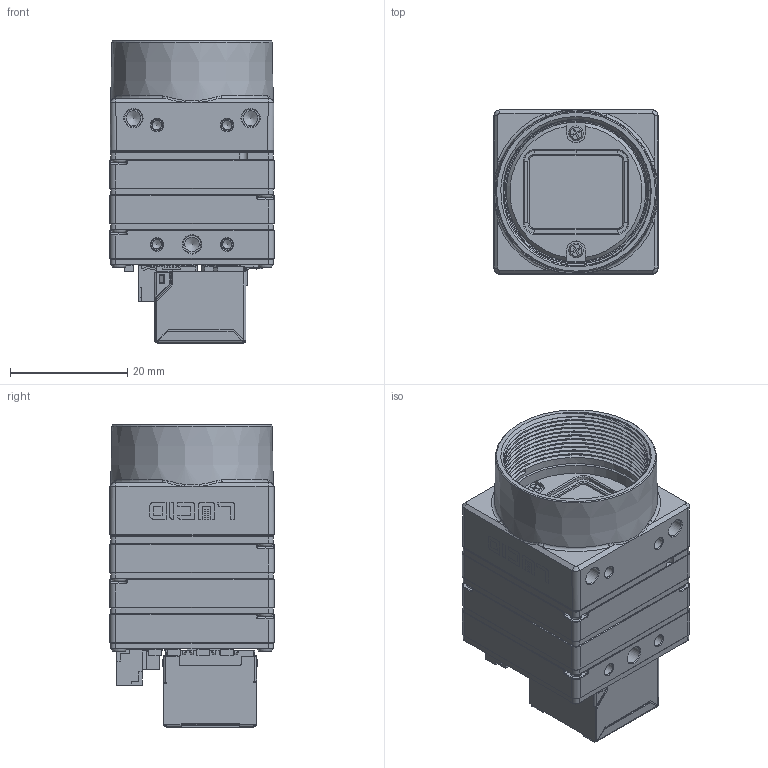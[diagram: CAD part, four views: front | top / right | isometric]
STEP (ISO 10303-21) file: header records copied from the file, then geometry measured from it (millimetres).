
FILE_DESCRIPTION (( 'STEP AP203' ), '1' );
FILE_NAME ('602-098.STEP', '2018-07-21T03:17:43', ( '' ), ( '' ), 'SwSTEP 2.0', 'SolidWorks 2017', '' );
FILE_SCHEMA (( 'CONFIG_CONTROL_DESIGN' ));
Products named in the file (1): 602-098
Bounding box: 28 x 28 x 51.56 mm (x, y, z)
Volume: 12379.9 mm3; surface area: 25253.2 mm2
Topology: 56 solids, 56 shells, 4769 faces, 12466 edges, 7762 vertices
Faces by surface type: plane 2895, cylinder 1121, bspline 304, cone 231, torus 120, sphere 98
Full cylindrical faces by diameter (mm): 1 x2, 1.05 x1, 1.1 x2, 1.2 x1, 1.35 x6, 1.5 x2, 1.6 x6, 1.7 x24, 1.8 x4, 1.9 x22, 2 x6, 2.5 x5, 3 x5, 24.2 x1, 24.64 x11
Entity records: 150487 total; most frequent: CARTESIAN_POINT 36354, ORIENTED_EDGE 24126, DIRECTION 22645, EDGE_CURVE 12063, VECTOR 8805, LINE 8805, VERTEX_POINT 7698, AXIS2_PLACEMENT_3D 6920
